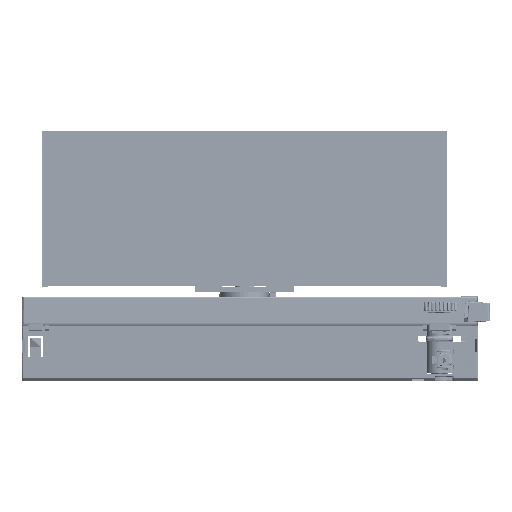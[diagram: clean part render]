
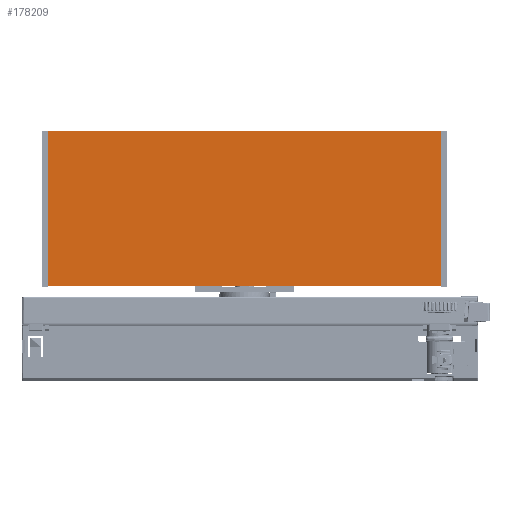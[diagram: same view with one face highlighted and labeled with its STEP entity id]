
A CAD part, top view. The second image highlights one B-rep face of the part: STEP entity #178209.
In plain terms, the highlighted planar face has unit normal (0, 0, 1).
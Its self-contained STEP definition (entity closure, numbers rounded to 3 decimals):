
#6359=PLANE('',#189750);
#19734=FACE_OUTER_BOUND('',#29338,.T.);
#29338=EDGE_LOOP('',(#126894,#126895,#126896,#126897));
#45257=LINE('',#286194,#58609);
#45400=LINE('',#286600,#58752);
#45749=LINE('',#287646,#59101);
#45812=LINE('',#287772,#59164);
#58609=VECTOR('',#211737,1000.);
#58752=VECTOR('',#212086,1000.);
#59101=VECTOR('',#213027,1000.);
#59164=VECTOR('',#213216,1000.);
#73258=VERTEX_POINT('',#286191);
#73259=VERTEX_POINT('',#286193);
#73418=VERTEX_POINT('',#286597);
#73419=VERTEX_POINT('',#286599);
#92540=EDGE_CURVE('',#73258,#73259,#45257,.T.);
#92739=EDGE_CURVE('',#73419,#73418,#45400,.T.);
#93237=EDGE_CURVE('',#73258,#73419,#45749,.T.);
#93300=EDGE_CURVE('',#73259,#73418,#45812,.T.);
#126894=ORIENTED_EDGE('',*,*,#92739,.T.);
#126895=ORIENTED_EDGE('',*,*,#93300,.F.);
#126896=ORIENTED_EDGE('',*,*,#92540,.F.);
#126897=ORIENTED_EDGE('',*,*,#93237,.T.);
#178209=ADVANCED_FACE('',(#19734),#6359,.F.);
#189750=AXIS2_PLACEMENT_3D('',#287771,#213214,#213215);
#211737=DIRECTION('',(0.,-1.,0.));
#212086=DIRECTION('',(0.,-1.,0.));
#213027=DIRECTION('',(-1.,0.,0.));
#213214=DIRECTION('center_axis',(0.,0.,
-1.));
#213215=DIRECTION('ref_axis',(0.,1.,0.));
#213216=DIRECTION('',(-1.,0.,0.));
#286191=CARTESIAN_POINT('',(99.5,27.669,16.9));
#286193=CARTESIAN_POINT('',(99.5,-50.981,16.9));
#286194=CARTESIAN_POINT('',(99.5,27.669,16.9));
#286597=CARTESIAN_POINT('',(-99.5,-50.981,16.9));
#286599=CARTESIAN_POINT('',(-99.5,27.669,16.9));
#286600=CARTESIAN_POINT('',(-99.5,27.669,16.9));
#287646=CARTESIAN_POINT('',(99.5,27.669,16.9));
#287771=CARTESIAN_POINT('Origin',(99.5,27.669,16.9));
#287772=CARTESIAN_POINT('',(99.5,-50.981,16.9));
